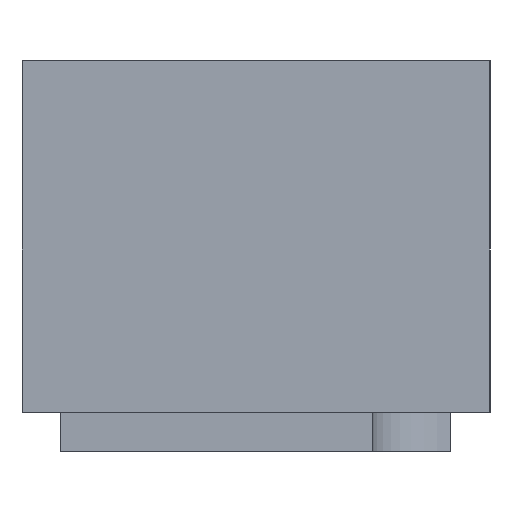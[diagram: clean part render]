
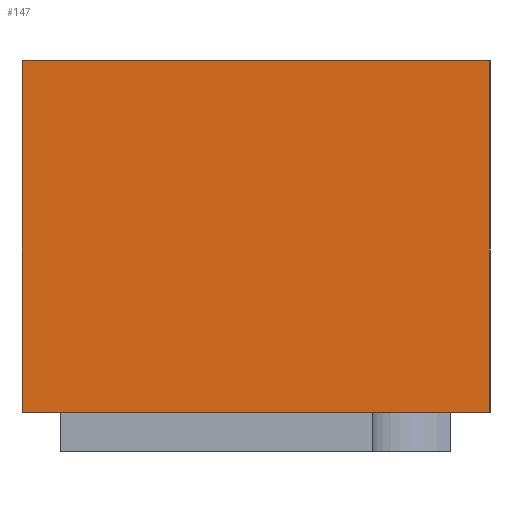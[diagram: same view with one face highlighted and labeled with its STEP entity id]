
A CAD part, left-side view. The second image highlights one B-rep face of the part: STEP entity #147.
In plain terms, the highlighted planar face has unit normal (-1, 0, 0).
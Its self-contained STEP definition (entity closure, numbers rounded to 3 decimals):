
#147=ADVANCED_FACE('',(#205),#176,.T.);
#176=PLANE('',#635);
#205=FACE_OUTER_BOUND('',#234,.T.);
#234=EDGE_LOOP('',(#313,#314,#315,#316));
#313=ORIENTED_EDGE('',*,*,#459,.T.);
#314=ORIENTED_EDGE('',*,*,#457,.T.);
#315=ORIENTED_EDGE('',*,*,#461,.F.);
#316=ORIENTED_EDGE('',*,*,#462,.T.);
#402=VERTEX_POINT('',#847);
#404=VERTEX_POINT('',#851);
#406=VERTEX_POINT('',#857);
#407=VERTEX_POINT('',#861);
#457=EDGE_CURVE('',#402,#404,#521,.T.);
#459=EDGE_CURVE('',#406,#402,#523,.T.);
#461=EDGE_CURVE('',#407,#404,#525,.T.);
#462=EDGE_CURVE('',#407,#406,#526,.T.);
#521=LINE('',#852,#583);
#523=LINE('',#856,#585);
#525=LINE('',#860,#587);
#526=LINE('',#862,#588);
#583=VECTOR('',#712,1.);
#585=VECTOR('',#716,1.);
#587=VECTOR('',#720,1.);
#588=VECTOR('',#721,1.);
#635=AXIS2_PLACEMENT_3D('',#863,#722,#723);
#712=DIRECTION('',(0.,1.,0.));
#716=DIRECTION('',(0.,0.,1.));
#720=DIRECTION('',(0.,0.,1.));
#721=DIRECTION('',(0.,-1.,0.));
#722=DIRECTION('',(-1.,0.,0.));
#723=DIRECTION('',(0.,0.,1.));
#847=CARTESIAN_POINT('',(-3.006,1.046,-0.619));
#851=CARTESIAN_POINT('',(-3.006,1.646,-0.619));
#852=CARTESIAN_POINT('',(-3.006,1.346,-0.619));
#856=CARTESIAN_POINT('',(-3.006,1.046,-1.069));
#857=CARTESIAN_POINT('',(-3.006,1.046,-1.069));
#860=CARTESIAN_POINT('',(-3.006,1.646,-1.069));
#861=CARTESIAN_POINT('',(-3.006,1.646,-1.069));
#862=CARTESIAN_POINT('',(-3.006,1.346,-1.069));
#863=CARTESIAN_POINT('',(-3.006,1.346,-1.069));
